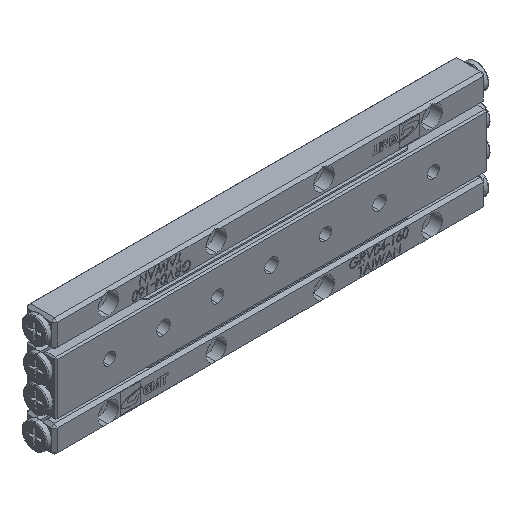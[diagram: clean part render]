
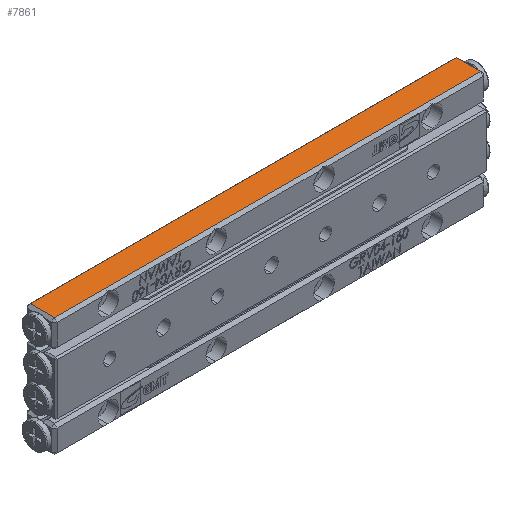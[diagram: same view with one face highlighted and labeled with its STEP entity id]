
A CAD part, isometric view. The second image highlights one B-rep face of the part: STEP entity #7861.
In plain terms, the highlighted planar face has unit normal (0, 0, 1).
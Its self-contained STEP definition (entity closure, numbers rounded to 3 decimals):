
#2416 = FACE_OUTER_BOUND ( 'NONE', #9063, .T. ) ;
#3419 = CARTESIAN_POINT ( 'NONE',  ( 76.357, 2.126, 21.93 ) ) ;
#3425 = CARTESIAN_POINT ( 'NONE',  ( -81.643, 11.126, 21.93 ) ) ;
#3441 = CARTESIAN_POINT ( 'NONE',  ( -81.643, 2.126, 21.93 ) ) ;
#5256 = CARTESIAN_POINT ( 'NONE',  ( 76.357, 11.126, 21.93 ) ) ;
#7861 = ADVANCED_FACE ( 'NONE', ( #2416 ), #26754, .F. ) ;
#9063 = EDGE_LOOP ( 'NONE', ( #30035, #30042, #30039, #30046 ) ) ;
#14064 = LINE ( 'NONE', #18977, #14067 ) ;
#14067 = VECTOR ( 'NONE', #18979, 1000. ) ;
#14334 = LINE ( 'NONE', #19326, #14337 ) ;
#14337 = VECTOR ( 'NONE', #19327, 1000. ) ;
#14346 = LINE ( 'NONE', #19321, #14348 ) ;
#14348 = VECTOR ( 'NONE', #19317, 1000. ) ;
#14349 = LINE ( 'NONE', #19336, #14351 ) ;
#14351 = VECTOR ( 'NONE', #19337, 1000. ) ;
#18977 = CARTESIAN_POINT ( 'NONE',  ( 77.357, 2.126, 21.93 ) ) ;
#18979 = DIRECTION ( 'NONE',  ( 1., 0., 0. ) ) ;
#19317 = DIRECTION ( 'NONE',  ( 0., 1., 0. ) ) ;
#19321 = CARTESIAN_POINT ( 'NONE',  ( 76.357, 1.126, 21.93 ) ) ;
#19326 = CARTESIAN_POINT ( 'NONE',  ( -81.643, 1.126, 21.93 ) ) ;
#19327 = DIRECTION ( 'NONE',  ( 0., -1., 0. ) ) ;
#19336 = CARTESIAN_POINT ( 'NONE',  ( 77.357, 11.126, 21.93 ) ) ;
#19337 = DIRECTION ( 'NONE',  ( -1., 0., 0. ) ) ;
#24072 = EDGE_CURVE ( 'NONE', #28085, #28063, #14064, .T. ) ;
#24291 = EDGE_CURVE ( 'NONE', #28069, #28085, #14334, .T. ) ;
#24303 = EDGE_CURVE ( 'NONE', #28063, #31279, #14346, .T. ) ;
#24308 = EDGE_CURVE ( 'NONE', #31279, #28069, #14349, .T. ) ;
#26747 = CARTESIAN_POINT ( 'NONE',  ( 77.357, 1.126, 21.93 ) ) ;
#26754 = PLANE ( 'NONE',  #30779 ) ;
#26756 = DIRECTION ( 'NONE',  ( 0., 0., -1. ) ) ;
#26757 = DIRECTION ( 'NONE',  ( 1., 0., 0. ) ) ;
#28063 = VERTEX_POINT ( 'NONE', #3419 ) ;
#28069 = VERTEX_POINT ( 'NONE', #3425 ) ;
#28085 = VERTEX_POINT ( 'NONE', #3441 ) ;
#30035 = ORIENTED_EDGE ( 'NONE', *, *, #24072, .T. ) ;
#30039 = ORIENTED_EDGE ( 'NONE', *, *, #24308, .T. ) ;
#30042 = ORIENTED_EDGE ( 'NONE', *, *, #24303, .T. ) ;
#30046 = ORIENTED_EDGE ( 'NONE', *, *, #24291, .T. ) ;
#30779 = AXIS2_PLACEMENT_3D ( 'NONE', #26747, #26756, #26757 ) ;
#31279 = VERTEX_POINT ( 'NONE', #5256 ) ;
